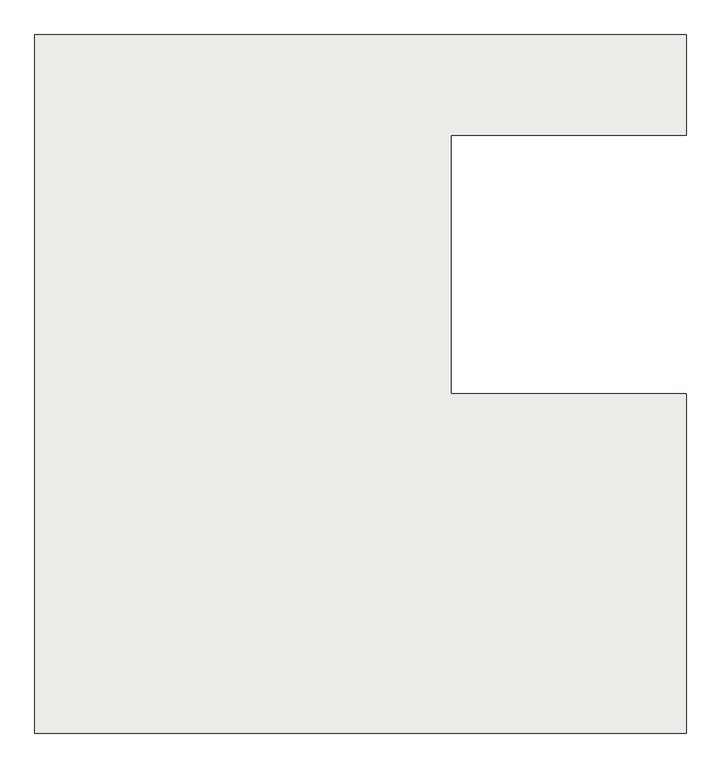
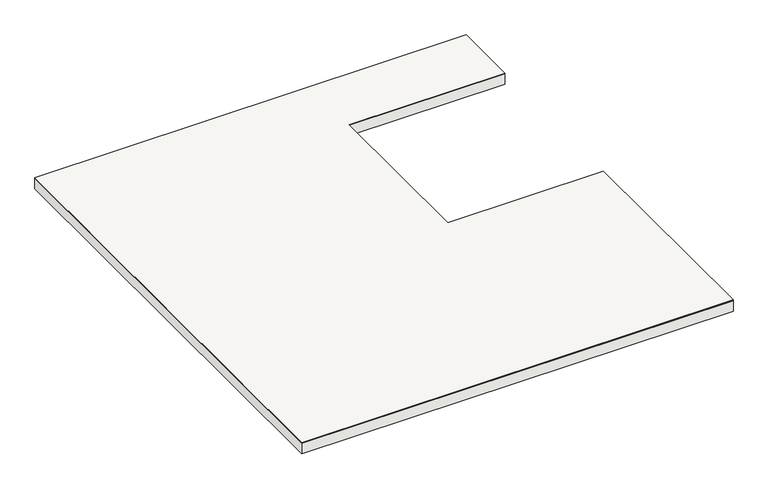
"""IFC4 building model written with IfcOpenShell, lengths in millimetres: slab geometry, Sol-02 - dalle béton 20cm + finition 1cm."""

from ifc_helpers import new_model, si_unit, frame, origin, origin_with_axes, place, context, project, spatial, polyline, outline, extrude, source, transform, mapped, element, save


def slab_84e7eeef(model_context):
    return source(origin(), model_context, "Body", "SweptSolid", [
        extrude(outline(polyline([(0.0, 8329.7846691), (7774.6776665, 8329.7846691), (7774.6776665, 7130.8061228), (4968.6776665, 7130.8061228), (4968.6776665, 4047.8061228), (7774.6776665, 4047.8061228), (7774.6776665, 0.0), (0.0, 0.0), (0.0, 8329.7846691)])), frame((0.0, 0.0, 200.0), z_axis=(0.0, 0.0, 1.0), x_axis=(1.0, 0.0, 0.0)), (0.0, 0.0, 1.0), 10.0),
        extrude(outline(polyline([(7774.6776665, 8329.7846691), (7774.6776665, 7130.8061228), (4968.6776665, 7130.8061228), (4968.6776665, 4047.8061228), (7774.6776665, 4047.8061228), (7774.6776665, 0.0), (0.0, 0.0), (0.0, 8329.7846691), (7774.6776665, 8329.7846691)])), origin_with_axes(), (0.0, 0.0, 1.0), 200.0),
    ])


if __name__ == "__main__":
    model = new_model("IFC4")
    model_context = context("Model", 3, world=origin())
    ifc_project = project(units=[si_unit("LENGTHUNIT", "METRE", prefix="MILLI")], contexts=[model_context])
    site = spatial("IfcSite", under=ifc_project)
    building = spatial("IfcBuilding", under=site)
    placement = place(None, origin())
    slab_shape = slab_84e7eeef(model_context)
    element("IfcSlab", 1, ObjectType="Sol-02 - dalle béton 20cm + finition 1cm", at=placement, inside=building, context=model_context, shape_type="MappedRepresentation", body=[
        mapped(slab_shape, transform((0.0, 0.0, 0.0), x_axis=(1.0, 0.0, 0.0), y_axis=(0.0, 1.0, 0.0), z_axis=(0.0, 0.0, 1.0))),
    ])
    save(model, "model.ifc")
